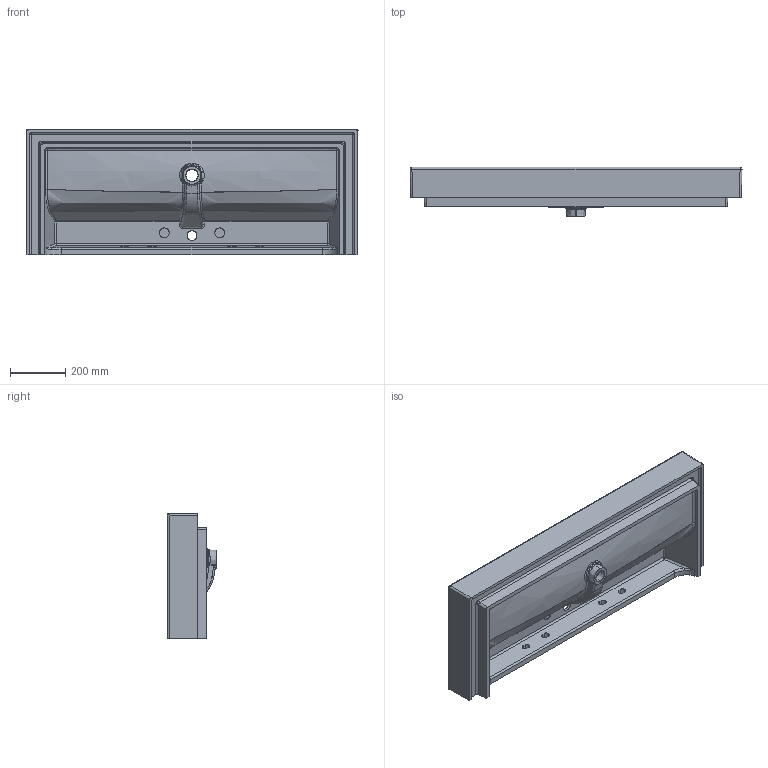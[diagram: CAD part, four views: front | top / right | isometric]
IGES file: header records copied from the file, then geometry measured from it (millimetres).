
Start section: SolidWorks IGES file using analytic representation for surfaces
Global section: file name: C:\Users\UTENTE 1\Desktop\3D LAVABI VELCA\VELCA120.IGS; native system: SolidWorks 2013; preprocessor: SolidWorks 2013; author: UTENTE 1; date: 141013.172811; units: millimetre
Bounding box: 1200.13 x 180 x 455.06 mm (x, y, z)
Surface area: 1889710.2 mm2 (no closed solid volume)
Topology: 0 solids, 0 shells, 198 faces, 3740 edges, 4196 vertices
Faces by surface type: bspline 125, revolution 73
